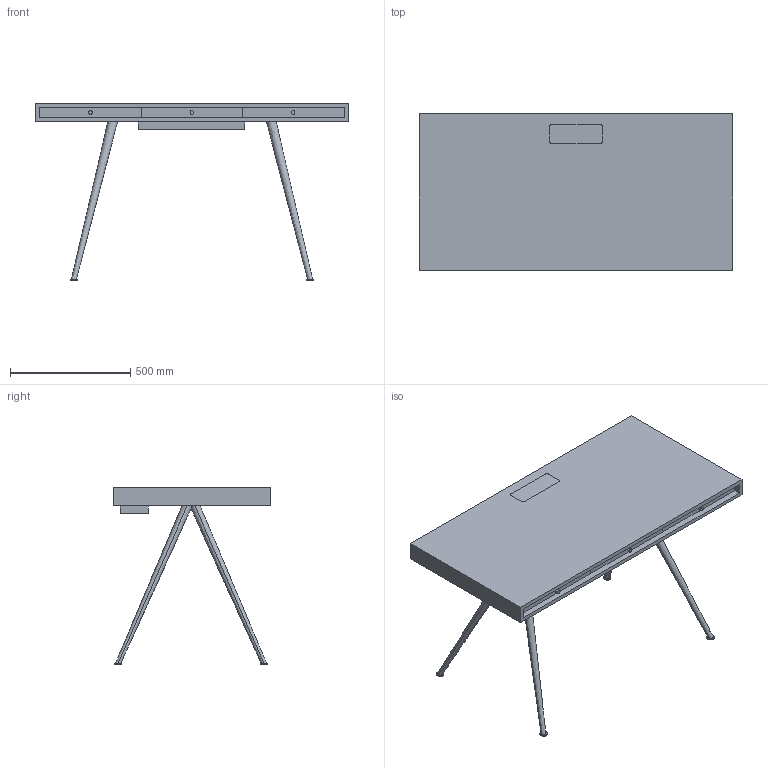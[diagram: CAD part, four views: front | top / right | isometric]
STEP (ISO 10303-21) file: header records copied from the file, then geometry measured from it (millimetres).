
FILE_DESCRIPTION(/* description */ (''),/* implementation_level */ '2;1');
FILE_NAME(/* name */ 'JFK-Home-Desk_NORR11',/* time_stamp */ '2024-11-14T09:54:03+01:00',/* author */ (''),/* organization */ (''),/* preprocessor_version */ 'ST-DEVELOPER v19.2',/* originating_system */ 'Rhino 8.13',/* authorisation */ '');
FILE_SCHEMA (('CONFIG_CONTROL_DESIGN'));
Length unit declared in the file: millimetre
Products named in the file (6): Document; FamilyGeomCombination_505224-View 1; FamilyGeomCombination_505223-View 1; FamilyGeomCombination_503934-View 1; FamilyGeomCombination_503899-View 1; FamilyGeomCombination_503819-View 1
Bounding box: 1300 x 650 x 737.83 mm (x, y, z)
Volume: 55256806 mm3; surface area: 4571781.8 mm2
Topology: 15 solids, 15 shells, 87 faces, 176 edges, 120 vertices
Faces by surface type: plane 65, cylinder 14, bspline 8
Entity records: 2987 total; most frequent: CARTESIAN_POINT 968, ORIENTED_EDGE 352, EDGE_CURVE 176, DIRECTION 169, B_SPLINE_CURVE_WITH_KNOTS 128, AXIS2_PLACEMENT_3D 124, VERTEX_POINT 120, EDGE_LOOP 90
